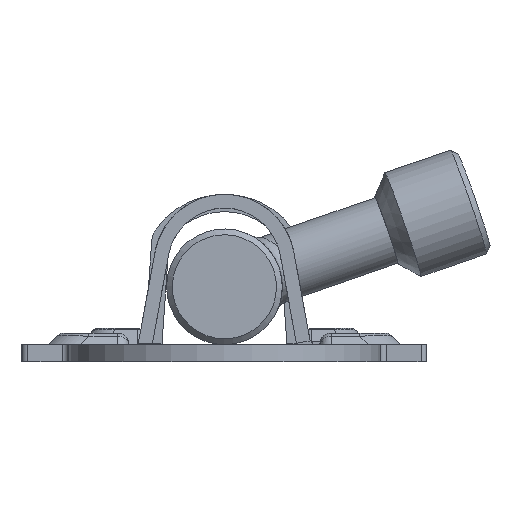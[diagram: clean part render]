
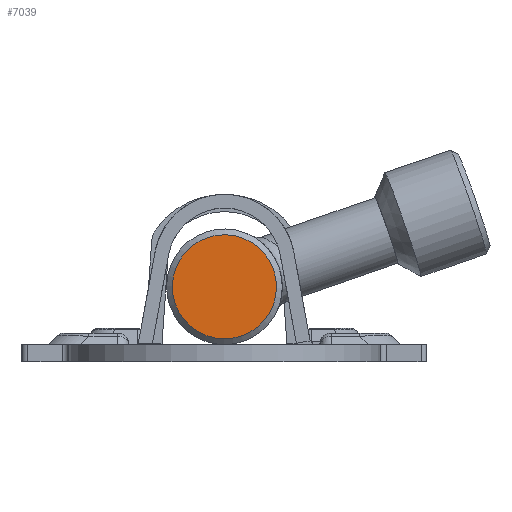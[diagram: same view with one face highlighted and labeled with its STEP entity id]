
A CAD part, left-side view. The second image highlights one B-rep face of the part: STEP entity #7039.
In plain terms, the highlighted planar face has unit normal (-1, 0, 0).
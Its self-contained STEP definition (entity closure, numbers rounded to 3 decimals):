
#215=PLANE('',#7561);
#2049=FACE_OUTER_BOUND('',#2497,.T.);
#2497=EDGE_LOOP('',(#5355));
#2918=CIRCLE('',#7560,4.5);
#3310=VERTEX_POINT('',#10891);
#4051=EDGE_CURVE('',#3310,#3310,#2918,.T.);
#5355=ORIENTED_EDGE('',*,*,#4051,.F.);
#7039=ADVANCED_FACE('',(#2049),#215,.T.);
#7560=AXIS2_PLACEMENT_3D('',#10892,#8620,#8621);
#7561=AXIS2_PLACEMENT_3D('',#10893,#8622,#8623);
#8620=DIRECTION('center_axis',(1.,0.,0.));
#8621=DIRECTION('ref_axis',(0.,-1.,0.));
#8622=DIRECTION('center_axis',(-1.,0.,0.));
#8623=DIRECTION('ref_axis',(0.,0.,1.));
#10891=CARTESIAN_POINT('',(0.,4.5,0.));
#10892=CARTESIAN_POINT('Origin',(0.,0.,0.));
#10893=CARTESIAN_POINT('Origin',(0.,5.,
0.));
